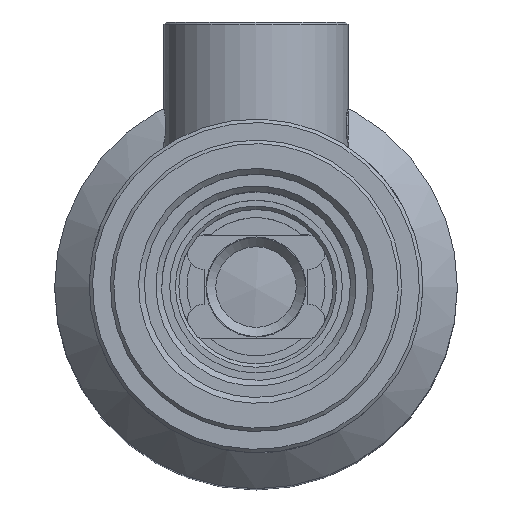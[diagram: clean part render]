
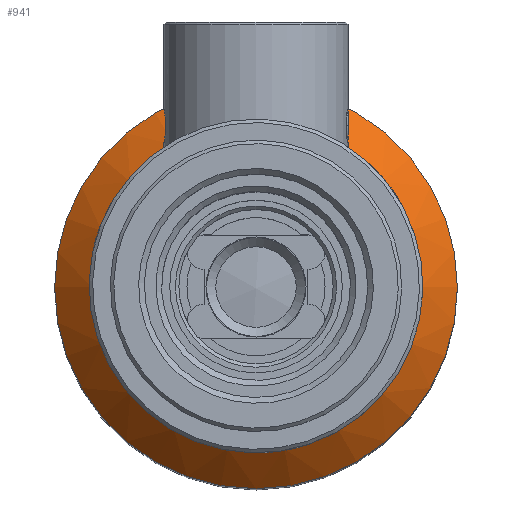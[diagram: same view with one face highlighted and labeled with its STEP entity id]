
A CAD part, top view. The second image highlights one B-rep face of the part: STEP entity #941.
In plain terms, the highlighted conical face has half-angle 45 degrees and reference radius 11 mm.
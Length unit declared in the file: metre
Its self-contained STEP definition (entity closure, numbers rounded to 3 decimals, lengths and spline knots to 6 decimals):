
#941=ADVANCED_FACE('1:24840',(#2143,#2144),#2145,.T.);
#2143=FACE_OUTER_BOUND('',#3637,.T.);
#2144=FACE_BOUND('',#3638,.T.);
#2145=CONICAL_SURFACE('',#3639,0.011,0.785);
#3637=EDGE_LOOP('',(#6145));
#3638=EDGE_LOOP('',(#6146));
#3639=AXIS2_PLACEMENT_3D('',#6147,#6148,#6149);
#6145=ORIENTED_EDGE('',*,*,#7587,.F.);
#6146=ORIENTED_EDGE('',*,*,#7572,.T.);
#6147=CARTESIAN_POINT('',(0.004447,0.005065,0.02657));
#6148=DIRECTION('',(0.,-0.0,-1.0));
#6149=DIRECTION('',(-1.0,0.0,0.));
#7572=EDGE_CURVE('1:26571',#8878,#8878,#8879,.T.);
#7587=EDGE_CURVE('1:26568',#8902,#8902,#8903,.T.);
#8878=VERTEX_POINT('',#10915);
#8879=CIRCLE('',#10916,0.011);
#8902=VERTEX_POINT('',#10939);
#8903=CIRCLE('',#10940,0.0175);
#10915=CARTESIAN_POINT('',(-0.006553,0.005065,0.02657));
#10916=AXIS2_PLACEMENT_3D('',#13382,#13383,#13384);
#10939=CARTESIAN_POINT('',(-0.013053,0.005065,0.02007));
#10940=AXIS2_PLACEMENT_3D('',#13409,#13410,#13411);
#13382=CARTESIAN_POINT('',(0.004447,0.005065,0.02657));
#13383=DIRECTION('',(0.,0.0,-1.0));
#13384=DIRECTION('',(-1.0,0.0,0.));
#13409=CARTESIAN_POINT('',(0.004447,0.005065,0.02007));
#13410=DIRECTION('',(0.,0.0,-1.0));
#13411=DIRECTION('',(-1.0,0.0,0.));
